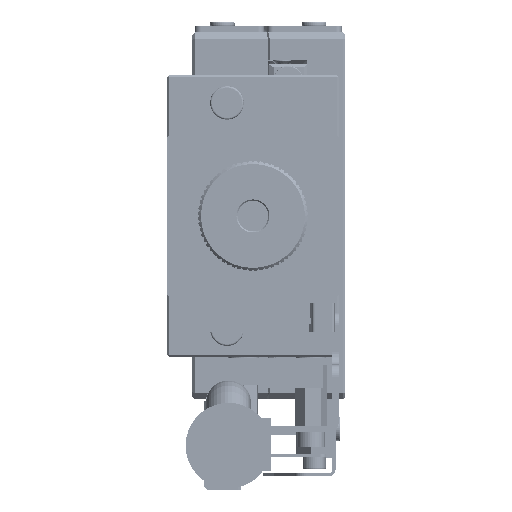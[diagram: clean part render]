
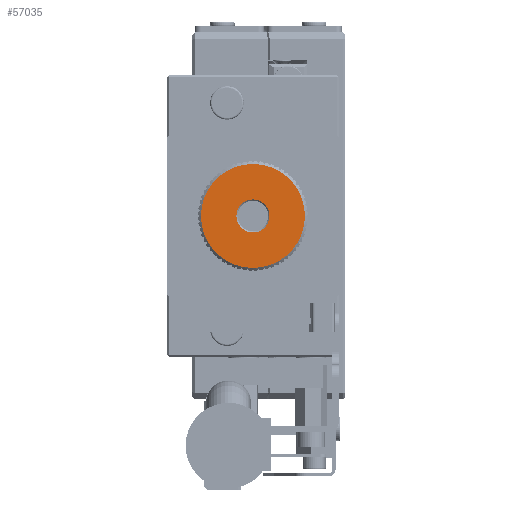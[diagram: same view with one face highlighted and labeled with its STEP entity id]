
A CAD part, front view. The second image highlights one B-rep face of the part: STEP entity #57035.
In plain terms, the highlighted planar face has unit normal (0, -1, 0) as drawn and (0, 0, 1) by its records, which use the part's own axes.
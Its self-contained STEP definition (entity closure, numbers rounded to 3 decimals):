
#2762 = DIRECTION ( 'NONE',  ( 0., 0., -1. ) ) ;
#6931 = VERTEX_POINT ( 'NONE', #19292 ) ;
#12848 = CIRCLE ( 'NONE', #100830, 2.7 ) ;
#17682 = CIRCLE ( 'NONE', #95692, 8.5 ) ;
#19292 = CARTESIAN_POINT ( 'NONE',  ( -8.5, 0., 9.5 ) ) ;
#23384 = EDGE_CURVE ( 'NONE', #146706, #63070, #12848, .T. ) ;
#23794 = CARTESIAN_POINT ( 'NONE',  ( 8.5, 0., 9.5 ) ) ;
#23944 = PLANE ( 'NONE',  #142105 ) ;
#26518 = VERTEX_POINT ( 'NONE', #23794 ) ;
#32193 = AXIS2_PLACEMENT_3D ( 'NONE', #141217, #45211, #128605 ) ;
#45211 = DIRECTION ( 'NONE',  ( 0., 0., -1. ) ) ;
#51635 = DIRECTION ( 'NONE',  ( 1., 0., 0. ) ) ;
#53207 = CARTESIAN_POINT ( 'NONE',  ( -2.7, 0., 9.5 ) ) ;
#55720 = CARTESIAN_POINT ( 'NONE',  ( 0., 0., 9.5 ) ) ;
#57035 = ADVANCED_FACE ( 'NONE', ( #94041, #131749 ), #23944, .T. ) ;
#59856 = CIRCLE ( 'NONE', #32193, 2.7 ) ;
#60925 = DIRECTION ( 'NONE',  ( 0., 0., 1. ) ) ;
#63070 = VERTEX_POINT ( 'NONE', #75494 ) ;
#70940 = ORIENTED_EDGE ( 'NONE', *, *, #23384, .T. ) ;
#71982 = DIRECTION ( 'NONE',  ( 1., 0., 0. ) ) ;
#72733 = CARTESIAN_POINT ( 'NONE',  ( 0., 0., 9.5 ) ) ;
#75494 = CARTESIAN_POINT ( 'NONE',  ( 2.7, 0., 9.5 ) ) ;
#93516 = DIRECTION ( 'NONE',  ( 1., 0., 0. ) ) ;
#94041 = FACE_BOUND ( 'NONE', #124553, .T. ) ;
#94740 = EDGE_CURVE ( 'NONE', #26518, #6931, #17682, .T. ) ;
#95675 = EDGE_CURVE ( 'NONE', #6931, #26518, #146088, .T. ) ;
#95692 = AXIS2_PLACEMENT_3D ( 'NONE', #112227, #98118, #51635 ) ;
#98118 = DIRECTION ( 'NONE',  ( 0., 0., 1. ) ) ;
#100349 = CARTESIAN_POINT ( 'NONE',  ( 0., 0., 9.5 ) ) ;
#100830 = AXIS2_PLACEMENT_3D ( 'NONE', #100349, #2762, #120839 ) ;
#112227 = CARTESIAN_POINT ( 'NONE',  ( 0., 0., 9.5 ) ) ;
#112876 = ORIENTED_EDGE ( 'NONE', *, *, #151572, .T. ) ;
#120839 = DIRECTION ( 'NONE',  ( 1., 0., 0. ) ) ;
#124553 = EDGE_LOOP ( 'NONE', ( #112876, #70940 ) ) ;
#128096 = DIRECTION ( 'NONE',  ( 0., 0., 1. ) ) ;
#128605 = DIRECTION ( 'NONE',  ( 1., 0., 0. ) ) ;
#129030 = ORIENTED_EDGE ( 'NONE', *, *, #94740, .T. ) ;
#131749 = FACE_OUTER_BOUND ( 'NONE', #146555, .T. ) ;
#135744 = ORIENTED_EDGE ( 'NONE', *, *, #95675, .T. ) ;
#141217 = CARTESIAN_POINT ( 'NONE',  ( 0., 0., 9.5 ) ) ;
#142105 = AXIS2_PLACEMENT_3D ( 'NONE', #72733, #60925, #71982 ) ;
#146088 = CIRCLE ( 'NONE', #148561, 8.5 ) ;
#146555 = EDGE_LOOP ( 'NONE', ( #135744, #129030 ) ) ;
#146706 = VERTEX_POINT ( 'NONE', #53207 ) ;
#148561 = AXIS2_PLACEMENT_3D ( 'NONE', #55720, #128096, #93516 ) ;
#151572 = EDGE_CURVE ( 'NONE', #63070, #146706, #59856, .T. ) ;
